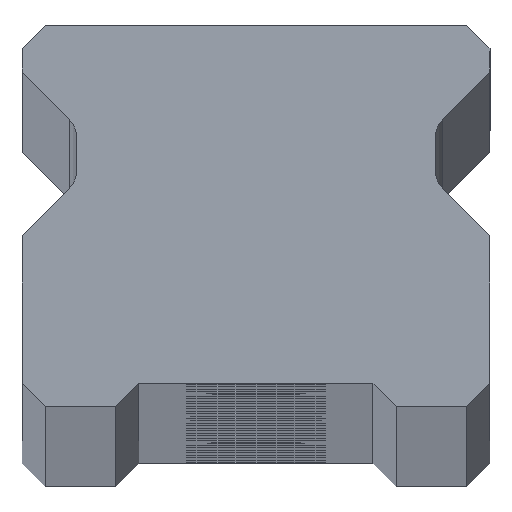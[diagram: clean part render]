
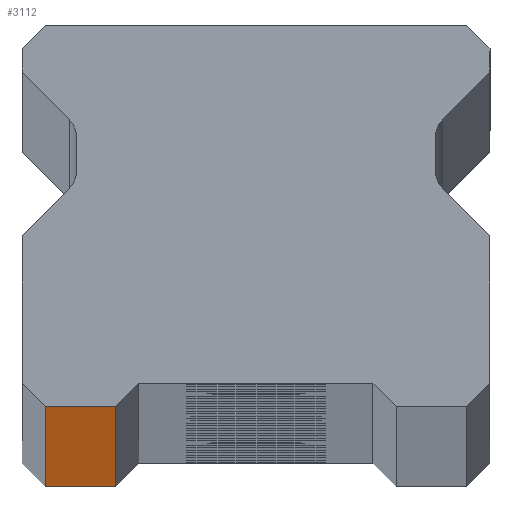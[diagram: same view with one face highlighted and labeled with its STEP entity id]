
A CAD part, top view. The second image highlights one B-rep face of the part: STEP entity #3112.
In plain terms, the highlighted planar face has unit normal (0, -1, 0).
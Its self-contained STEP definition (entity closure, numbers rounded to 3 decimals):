
#51 = CARTESIAN_POINT ( 'NONE',  ( -9., 0., 980. ) ) ;
#215 = EDGE_CURVE ( 'NONE', #2965, #5856, #831, .T. ) ;
#297 = DIRECTION ( 'NONE',  ( 1., 0., 0. ) ) ;
#336 = DIRECTION ( 'NONE',  ( 1., 0., 0. ) ) ;
#566 = ORIENTED_EDGE ( 'NONE', *, *, #1214, .T. ) ;
#739 = CARTESIAN_POINT ( 'NONE',  ( 10., 0., -980. ) ) ;
#831 = LINE ( 'NONE', #1293, #4962 ) ;
#1002 = PLANE ( 'NONE',  #4359 ) ;
#1214 = EDGE_CURVE ( 'NONE', #2965, #3716, #3218, .T. ) ;
#1270 = EDGE_CURVE ( 'NONE', #3716, #5516, #2227, .T. ) ;
#1293 = CARTESIAN_POINT ( 'NONE',  ( 10., 0., 980. ) ) ;
#2227 = LINE ( 'NONE', #739, #4530 ) ;
#2272 = VECTOR ( 'NONE', #2642, 1000. ) ;
#2642 = DIRECTION ( 'NONE',  ( 0., 0., 1. ) ) ;
#2822 = CARTESIAN_POINT ( 'NONE',  ( 10., 0., 980. ) ) ;
#2965 = VERTEX_POINT ( 'NONE', #51 ) ;
#3112 = ADVANCED_FACE ( 'NONE', ( #4941 ), #1002, .F. ) ;
#3218 = LINE ( 'NONE', #4992, #3924 ) ;
#3268 = ORIENTED_EDGE ( 'NONE', *, *, #1270, .T. ) ;
#3571 = DIRECTION ( 'NONE',  ( 0., 0., -1. ) ) ;
#3685 = EDGE_CURVE ( 'NONE', #5516, #5856, #4652, .T. ) ;
#3716 = VERTEX_POINT ( 'NONE', #4494 ) ;
#3829 = ORIENTED_EDGE ( 'NONE', *, *, #215, .F. ) ;
#3924 = VECTOR ( 'NONE', #3571, 1000. ) ;
#4211 = ORIENTED_EDGE ( 'NONE', *, *, #3685, .T. ) ;
#4232 = DIRECTION ( 'NONE',  ( -1., 0., 0. ) ) ;
#4295 = DIRECTION ( 'NONE',  ( 0., 1., 0. ) ) ;
#4359 = AXIS2_PLACEMENT_3D ( 'NONE', #2822, #4295, #4232 ) ;
#4494 = CARTESIAN_POINT ( 'NONE',  ( -9., 0., -980. ) ) ;
#4530 = VECTOR ( 'NONE', #336, 1000. ) ;
#4613 = CARTESIAN_POINT ( 'NONE',  ( -6., 0., -980. ) ) ;
#4652 = LINE ( 'NONE', #5401, #2272 ) ;
#4941 = FACE_OUTER_BOUND ( 'NONE', #5422, .T. ) ;
#4962 = VECTOR ( 'NONE', #297, 1000. ) ;
#4992 = CARTESIAN_POINT ( 'NONE',  ( -9., 0., 980. ) ) ;
#5401 = CARTESIAN_POINT ( 'NONE',  ( -6., 0., -980. ) ) ;
#5422 = EDGE_LOOP ( 'NONE', ( #3268, #4211, #3829, #566 ) ) ;
#5516 = VERTEX_POINT ( 'NONE', #4613 ) ;
#5785 = CARTESIAN_POINT ( 'NONE',  ( -6., 0., 980. ) ) ;
#5856 = VERTEX_POINT ( 'NONE', #5785 ) ;
